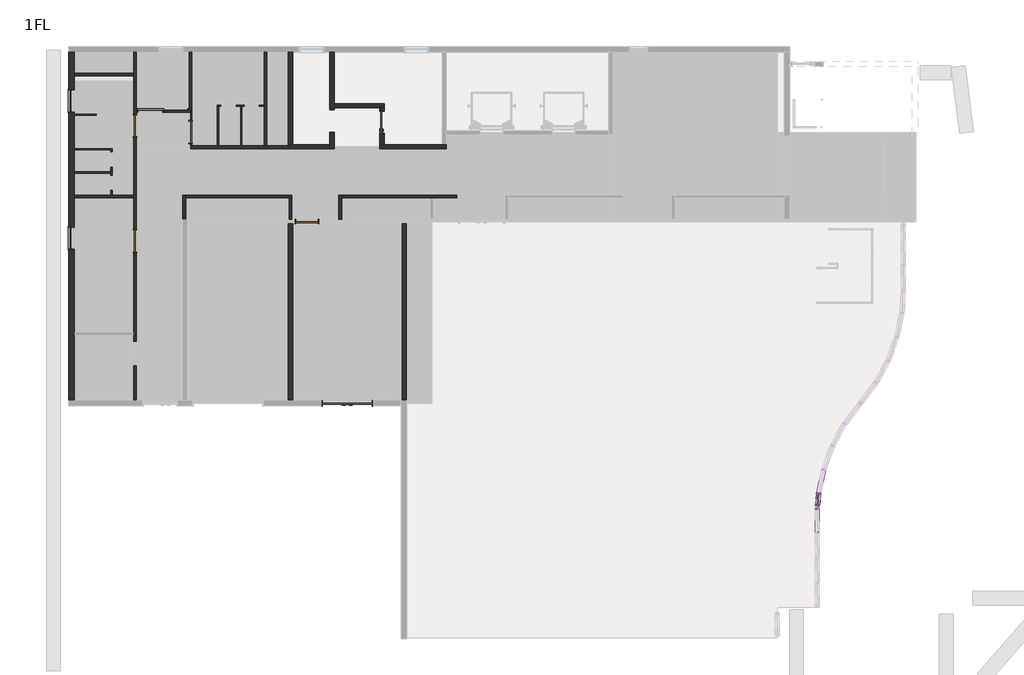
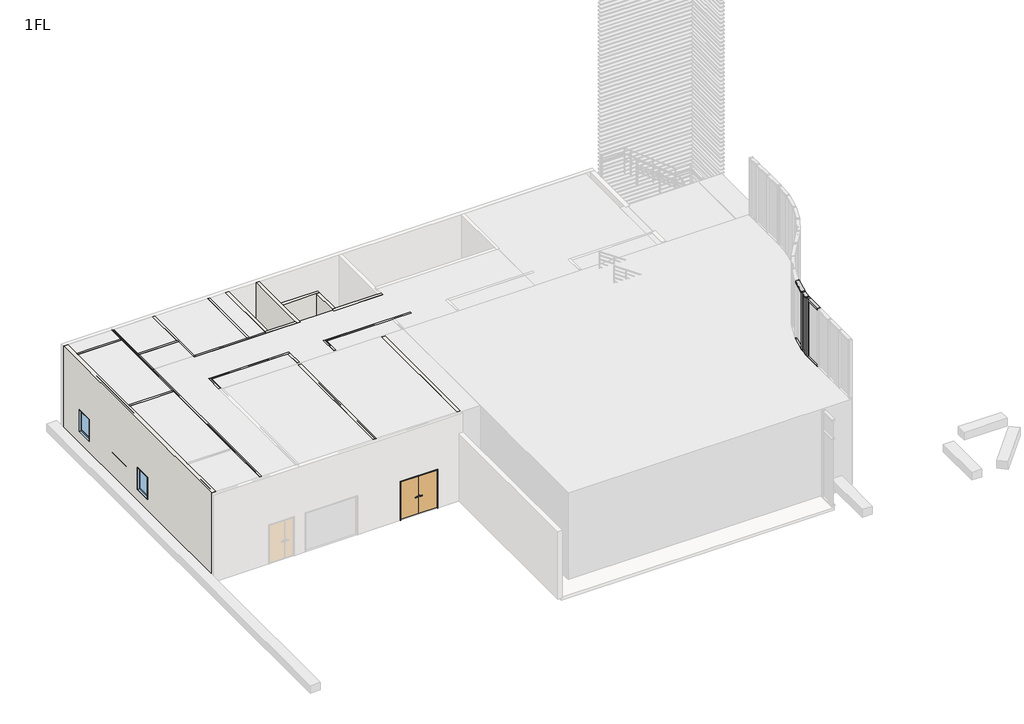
# One storey, part 2 of 4: 28 walls, 20 members, 8 doors, 3 plates, 2 windows.
"""IFC4 building model written with IfcOpenShell, lengths in millimetres."""

from ifc_helpers import new_model, si_unit, frame, origin, place, context, project, spatial, polyline, outline, extrude, faceted_brep, transform, mapped, element, save
from components import door_d36aa26d, w1800h2000_f6699b6c, w800h2000_3f366617, w800h2000_d618cdcf, w800h2000_a3277af1, member_70x150_cdd4dcf9, member_70x150_66cf63de, member_70x150_ad4265bc, member_70x150_1b280ac3, member_70x150_f8cbd96f, member_70x150_4e68411c, member_70x150_3f761639, member_70x150_beb285de, member_70x150_2211757b, member_70x150_e418e2be, plate_488bd90f, plate_74590c32, w800_h1100_43525bd9

model = new_model("IFC4")

# Units and contexts
model_context = context("Model", 3, world=origin())
ifc_project = project(units=[si_unit("LENGTHUNIT", "METRE", prefix="MILLI")], contexts=[model_context])

# Site, building, storey
site = spatial("IfcSite", under=ifc_project)
building = spatial("IfcBuilding", under=site)
storey = spatial("IfcBuildingStorey", under=building, Name="1FL", Elevation=100.0)

# Doors
placement = place(None, origin())
door_shape = door_d36aa26d(model_context)
element("IfcDoor", 1, ObjectType="両開き戸 : 両開き：w1800h2000", at=placement, inside=storey, context=model_context, shape_type="MappedRepresentation", body=[
    mapped(door_shape, transform((-18904.4500107, 3899.6868987, 100.0), x_axis=(-1.0, 0.0, 0.0), y_axis=(0.0, -1.0, 0.0), z_axis=(0.0, 0.0, 1.0))),
])
w1800h2000_shape = w1800h2000_f6699b6c(model_context)
element("IfcDoor", 2, ObjectType="片引戸 : w1800h2000", at=placement, inside=storey, context=model_context, shape_type="MappedRepresentation", body=[
    mapped(w1800h2000_shape, transform((-25845.9784025, 14539.6868987, 100.0), x_axis=(-1.0, 0.0, 0.0), y_axis=(0.0, -1.0, 0.0), z_axis=(0.0, 0.0, 1.0))),
])
w800h2000_shape = w800h2000_3f366617(model_context)
element("IfcDoor", 3, ObjectType="片開き戸 : w800h2000", at=placement, inside=storey, context=model_context, shape_type="MappedRepresentation", body=[
    mapped(w800h2000_shape, transform((-26545.9784025, 13899.6868987, 100.0), x_axis=(0.0, 1.0, 0.0), y_axis=(-1.0, 0.0, 0.0), z_axis=(0.0, 0.0, 1.0))),
])
element("IfcDoor", 4, ObjectType="片開き戸 : w800h2000", at=placement, inside=storey, context=model_context, shape_type="MappedRepresentation", body=[
    mapped(w800h2000_shape, transform((-26545.9784025, 9749.6868987, 100.0), x_axis=(0.0, 1.0, 0.0), y_axis=(-1.0, 0.0, 0.0), z_axis=(0.0, 0.0, 1.0))),
])
element("IfcDoor", 5, ObjectType="片開き戸 : w800h2000", at=placement, inside=storey, context=model_context, shape_type="MappedRepresentation", body=[
    mapped(w800h2000_shape, transform((-24545.9784025, 13674.6868987, 100.0), x_axis=(0.0, -1.0, 0.0), y_axis=(1.0, 0.0, 0.0), z_axis=(0.0, 0.0, 1.0))),
])
w800h2000_2_shape = w800h2000_d618cdcf(model_context)
element("IfcDoor", 6, ObjectType="片開き戸 : w800h2000", at=placement, inside=storey, context=model_context, shape_type="MappedRepresentation", body=[
    mapped(w800h2000_2_shape, transform((-20345.9784025, 10449.6868987, 100.0), x_axis=(-1.0, 0.0, 0.0), y_axis=(0.0, -1.0, 0.0), z_axis=(0.0, 0.0, 1.0))),
])
element("IfcDoor", 7, ObjectType="片開き戸 : w800h2000", at=placement, inside=storey, context=model_context, shape_type="MappedRepresentation", body=[
    mapped(w800h2000_2_shape, transform((-17645.9784025, 14024.6868987, 100.0), x_axis=(0.0, 1.0, 0.0), y_axis=(-1.0, 0.0, 0.0), z_axis=(0.0, 0.0, 1.0))),
])
w800h2000_3_shape = w800h2000_a3277af1(model_context)
element("IfcDoor", 8, ObjectType="開口枠あり : w800h2000", at=placement, inside=storey, context=model_context, shape_type="MappedRepresentation", body=[
    mapped(w800h2000_3_shape, transform((-19445.9784025, 14074.6868987, 100.0), x_axis=(0.0, 1.0, 0.0), y_axis=(-1.0, 0.0, 0.0), z_axis=(0.0, 0.0, 1.0))),
])

# Members
member_70x150_shape = member_70x150_cdd4dcf9(model_context)
element("IfcMember", 9, ObjectType="長方形のマリオン : 70x150", at=placement, inside=storey, context=model_context, shape_type="MappedRepresentation", body=[
    mapped(member_70x150_shape, transform((-1899.8591662, 644.4196307, 100.0), x_axis=(-0.13765395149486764, -0.990480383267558, 0.0), y_axis=(-0.990480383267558, 0.13765395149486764, 0.0), z_axis=(0.0, 0.0, -1.0))),
])
element("IfcMember", 10, ObjectType="長方形のマリオン : 70x150", at=placement, inside=storey, context=model_context, shape_type="MappedRepresentation", body=[
    mapped(member_70x150_shape, transform((-1945.9784025, 114.6868987, 100.0), x_axis=(0.0, 1.0, 0.0), y_axis=(1.0, 0.0, 0.0), z_axis=(0.0, 0.0, -1.0))),
])
member_70x150_2_shape = member_70x150_66cf63de(model_context)
element("IfcMember", 11, ObjectType="長方形のマリオン : 70x150", at=placement, inside=storey, context=model_context, shape_type="MappedRepresentation", body=[
    mapped(member_70x150_2_shape, transform((-1945.9784025, 79.6868987, 7600.0), x_axis=(0.0, 0.0, 1.0), y_axis=(1.0, 0.0, 0.0), z_axis=(0.0, 1.0, 0.0))),
])
member_70x150_3_shape = member_70x150_ad4265bc(model_context)
element("IfcMember", 12, ObjectType="長方形のマリオン : 70x150", at=placement, inside=storey, context=model_context, shape_type="MappedRepresentation", body=[
    mapped(member_70x150_3_shape, transform((-1945.9784025, 79.6868987, 3100.0), x_axis=(0.0, 0.0, 1.0), y_axis=(1.0, 0.0, 0.0), z_axis=(0.0, 1.0, 0.0))),
])
element("IfcMember", 13, ObjectType="長方形のマリオン : 70x150", at=placement, inside=storey, context=model_context, shape_type="MappedRepresentation", body=[
    mapped(member_70x150_3_shape, transform((-1945.9784025, 79.6868987, 4600.0), x_axis=(0.0, 0.0, 1.0), y_axis=(1.0, 0.0, 0.0), z_axis=(0.0, 1.0, 0.0))),
])
member_70x150_4_shape = member_70x150_1b280ac3(model_context)
element("IfcMember", 14, ObjectType="長方形のマリオン : 70x150", at=placement, inside=storey, context=model_context, shape_type="MappedRepresentation", body=[
    mapped(member_70x150_4_shape, transform((-1945.9784025, 189.6095485, 100.0), x_axis=(-0.10088592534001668, -0.9948979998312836, 0.0), y_axis=(-0.9948979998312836, 0.10088592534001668, 0.0), z_axis=(0.0, 0.0, -1.0))),
])
member_70x150_5_shape = member_70x150_f8cbd96f(model_context)
element("IfcMember", 15, ObjectType="長方形のマリオン : 70x150", at=placement, inside=storey, context=model_context, shape_type="MappedRepresentation", body=[
    mapped(member_70x150_5_shape, transform((-1899.8591662, 644.4196307, 3100.0), x_axis=(-0.13765395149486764, -0.990480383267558, 0.0), y_axis=(-0.990480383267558, 0.13765395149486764, 0.0), z_axis=(0.0, 0.0, -1.0))),
])
element("IfcMember", 16, ObjectType="長方形のマリオン : 70x150", at=placement, inside=storey, context=model_context, shape_type="MappedRepresentation", body=[
    mapped(member_70x150_5_shape, transform((-1945.9784025, 114.6868987, 3100.0), x_axis=(0.0, 1.0, 0.0), y_axis=(1.0, 0.0, 0.0), z_axis=(0.0, 0.0, -1.0))),
])
element("IfcMember", 17, ObjectType="長方形のマリオン : 70x150", at=placement, inside=storey, context=model_context, shape_type="MappedRepresentation", body=[
    mapped(member_70x150_shape, transform((-1899.8591662, 644.4196307, 4600.0), x_axis=(-0.13765395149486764, -0.990480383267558, 0.0), y_axis=(-0.990480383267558, 0.13765395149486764, 0.0), z_axis=(0.0, 0.0, -1.0))),
])
element("IfcMember", 18, ObjectType="長方形のマリオン : 70x150", at=placement, inside=storey, context=model_context, shape_type="MappedRepresentation", body=[
    mapped(member_70x150_shape, transform((-1945.9784025, 114.6868987, 4600.0), x_axis=(0.0, 1.0, 0.0), y_axis=(1.0, 0.0, 0.0), z_axis=(0.0, 0.0, -1.0))),
])
element("IfcMember", 19, ObjectType="長方形のマリオン : 70x150", at=placement, inside=storey, context=model_context, shape_type="MappedRepresentation", body=[
    mapped(member_70x150_4_shape, transform((-1945.9784025, 189.6095485, 4600.0), x_axis=(-0.10088592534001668, -0.9948979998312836, 0.0), y_axis=(-0.9948979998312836, 0.10088592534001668, 0.0), z_axis=(0.0, 0.0, -1.0))),
])
member_70x150_6_shape = member_70x150_4e68411c(model_context)
element("IfcMember", 20, ObjectType="長方形のマリオン : 70x150", at=placement, inside=storey, context=model_context, shape_type="MappedRepresentation", body=[
    mapped(member_70x150_6_shape, transform((-1945.9784025, 189.6095485, 3100.0), x_axis=(-0.10088592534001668, -0.9948979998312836, 0.0), y_axis=(-0.9948979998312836, 0.10088592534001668, 0.0), z_axis=(0.0, 0.0, -1.0))),
])
member_70x150_7_shape = member_70x150_3f761639(model_context)
element("IfcMember", 21, ObjectType="長方形のマリオン : 70x150", at=placement, inside=storey, context=model_context, shape_type="MappedRepresentation", body=[
    mapped(member_70x150_7_shape, transform((-1938.9163877, 259.2524085, 3100.0), x_axis=(0.0, 0.0, 1.0), y_axis=(-0.9948979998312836, 0.10088592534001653, 0.0), z_axis=(-0.10088592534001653, -0.9948979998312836, 0.0))),
])
member_70x150_8_shape = member_70x150_beb285de(model_context)
element("IfcMember", 22, ObjectType="長方形のマリオン : 70x150", at=placement, inside=storey, context=model_context, shape_type="MappedRepresentation", body=[
    mapped(member_70x150_8_shape, transform((-1892.5270502, 678.6430156, 4600.0), x_axis=(0.0, 0.0, 1.0), y_axis=(-0.9778109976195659, 0.2094890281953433, 0.0), z_axis=(-0.2094890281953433, -0.9778109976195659, 0.0))),
])
element("IfcMember", 23, ObjectType="長方形のマリオン : 70x150", at=placement, inside=storey, context=model_context, shape_type="MappedRepresentation", body=[
    mapped(member_70x150_7_shape, transform((-1938.9163877, 259.2524085, 4600.0), x_axis=(0.0, 0.0, 1.0), y_axis=(-0.9948979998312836, 0.10088592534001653, 0.0), z_axis=(-0.10088592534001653, -0.9948979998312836, 0.0))),
])
element("IfcMember", 24, ObjectType="長方形のマリオン : 70x150", at=placement, inside=storey, context=model_context, shape_type="MappedRepresentation", body=[
    mapped(member_70x150_8_shape, transform((-1892.5270502, 678.6430156, 3100.0), x_axis=(0.0, 0.0, 1.0), y_axis=(-0.9778109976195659, 0.2094890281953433, 0.0), z_axis=(-0.2094890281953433, -0.9778109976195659, 0.0))),
])
member_70x150_9_shape = member_70x150_2211757b(model_context)
element("IfcMember", 25, ObjectType="長方形のマリオン : 70x150", at=placement, inside=storey, context=model_context, shape_type="MappedRepresentation", body=[
    mapped(member_70x150_9_shape, transform((-1892.5270502, 678.6430156, 7600.0), x_axis=(0.0, 0.0, 1.0), y_axis=(-0.9778109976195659, 0.2094890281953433, 0.0), z_axis=(-0.2094890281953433, -0.9778109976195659, 0.0))),
])
member_70x150_10_shape = member_70x150_e418e2be(model_context)
element("IfcMember", 26, ObjectType="長方形のマリオン : 70x150", at=placement, inside=storey, context=model_context, shape_type="MappedRepresentation", body=[
    mapped(member_70x150_10_shape, transform((-1903.3901735, 609.5982007, 100.0), x_axis=(0.0, 0.0, -1.0), y_axis=(-0.9948979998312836, 0.10088592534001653, 0.0), z_axis=(0.10088592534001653, 0.9948979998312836, 0.0))),
])
element("IfcMember", 27, ObjectType="長方形のマリオン : 70x150", at=placement, inside=storey, context=model_context, shape_type="MappedRepresentation", body=[
    mapped(member_70x150_10_shape, transform((-1938.9163877, 259.2524085, 7600.0), x_axis=(0.0, 0.0, 1.0), y_axis=(-0.9948979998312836, 0.10088592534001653, 0.0), z_axis=(-0.10088592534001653, -0.9948979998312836, 0.0))),
])
element("IfcMember", 28, ObjectType="長方形のマリオン : 70x150", at=placement, inside=storey, context=model_context, shape_type="MappedRepresentation", body=[
    mapped(member_70x150_4_shape, transform((-1945.9784025, 189.6095485, 4600.0), x_axis=(0.0, 1.0, 0.0), y_axis=(1.0, 0.0, 0.0), z_axis=(0.0, 0.0, -1.0))),
])

# Plates
plate_shape = plate_488bd90f(model_context)
element("IfcPlate", 29, ObjectType="システム パネル : 標準", at=placement, inside=storey, context=model_context, shape_type="MappedRepresentation", body=[
    mapped(plate_shape, transform((-1921.1532806, 434.4253046, 170.0), x_axis=(-0.10088592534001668, -0.9948979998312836, 0.0), y_axis=(0.9948979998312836, -0.10088592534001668, 0.0), z_axis=(0.0, 0.0, 1.0))),
])
element("IfcPlate", 30, ObjectType="システム パネル : 標準", at=placement, inside=storey, context=model_context, shape_type="MappedRepresentation", body=[
    mapped(plate_shape, transform((-1921.1532806, 434.4253046, 4635.0), x_axis=(-0.10088592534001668, -0.9948979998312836, 0.0), y_axis=(0.9948979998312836, -0.10088592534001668, 0.0), z_axis=(0.0, 0.0, 1.0))),
])
plate_2_shape = plate_74590c32(model_context)
element("IfcPlate", 31, ObjectType="システム パネル : 標準", at=placement, inside=storey, context=model_context, shape_type="MappedRepresentation", body=[
    mapped(plate_2_shape, transform((-1921.1532806, 434.4253046, 3135.0), x_axis=(-0.10088592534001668, -0.9948979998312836, 0.0), y_axis=(0.9948979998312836, -0.10088592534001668, 0.0), z_axis=(0.0, 0.0, 1.0))),
])

# Walls
element("IfcWall", 32, ObjectType="標準200", at=placement, inside=storey, context=model_context, shape_type="Brep", body=[
    faceted_brep([(-28745.9784025, 3999.6868987, 100.0), (-28745.9784025, 4349.6868987, 100.0), (-28745.9784025, 6349.6868987, 100.0), (-28745.9784025, 6449.6868987, 100.0), (-28745.9784025, 10449.6868987, 100.0), (-28745.9784025, 11299.6868987, 100.0), (-28745.9784025, 11399.6868987, 100.0), (-28745.9784025, 12199.6868987, 100.0), (-28745.9784025, 12239.6868987, 100.0), (-28745.9784025, 13039.6868987, 100.0), (-28745.9784025, 13079.6868987, 100.0), (-28745.9784025, 14279.6868987, 100.0), (-28745.9784025, 14319.6868987, 100.0), (-28745.9784025, 15699.6868987, 100.0), (-28745.9784025, 15799.6868987, 100.0), (-28745.9784025, 16549.6868987, 100.0), (-28745.9784025, 16549.6868987, 4600.0), (-28745.9784025, 15799.6868987, 4600.0), (-28745.9784025, 15699.6868987, 4600.0), (-28745.9784025, 11399.6868987, 4600.0), (-28745.9784025, 11299.6868987, 4600.0), (-28745.9784025, 10449.6868987, 4600.0), (-28745.9784025, 6449.6868987, 4600.0), (-28745.9784025, 6349.6868987, 4600.0), (-28745.9784025, 4349.6868987, 4600.0), (-28745.9784025, 3999.6868987, 4600.0), (-28745.9784025, 15224.6868987, 2125.0), (-28745.9784025, 15224.6868987, 975.0), (-28745.9784025, 14374.6868987, 975.0), (-28745.9784025, 14374.6868987, 2125.0), (-28745.9784025, 10274.6868987, 2125.0), (-28745.9784025, 10274.6868987, 975.0), (-28745.9784025, 9424.6868987, 975.0), (-28745.9784025, 9424.6868987, 2125.0), (-28945.9784025, 3999.6868987, 100.0), (-28945.9784025, 3999.6868987, 4600.0), (-28945.9784025, 16549.6868987, 4600.0), (-28945.9784025, 16549.6868987, 100.0), (-28945.9784025, 15224.6868987, 2125.0), (-28945.9784025, 14374.6868987, 2125.0), (-28945.9784025, 14374.6868987, 975.0), (-28945.9784025, 15224.6868987, 975.0), (-28945.9784025, 10274.6868987, 2125.0), (-28945.9784025, 9424.6868987, 2125.0), (-28945.9784025, 9424.6868987, 975.0), (-28945.9784025, 10274.6868987, 975.0), (-28845.9784025, 16549.6868987, 4600.0)], [[[0, 1, 2, 3, 4, 5, 6, 7, 8, 9, 10, 11, 12, 13, 14, 15, 16, 17, 18, 19, 20, 21, 22, 23, 24, 25], [26, 27, 28, 29], [30, 31, 32, 33]], [[34, 35, 36, 37], [38, 39, 40, 41], [42, 43, 44, 45]], [[15, 14, 13, 12, 11, 10, 9, 8, 7, 6, 5, 4, 3, 2, 1, 0, 34, 37]], [[25, 24, 23, 22, 21, 20, 19, 18, 17, 16, 46, 36, 35]], [[0, 25, 35, 34]], [[15, 37, 36, 46, 16]], [[27, 26, 38, 41]], [[28, 27, 41, 40]], [[29, 28, 40, 39]], [[26, 29, 39, 38]], [[31, 30, 42, 45]], [[32, 31, 45, 44]], [[33, 32, 44, 43]], [[30, 33, 43, 42]]]),
])
element("IfcWall", 33, ObjectType="標準150", at=placement, inside=storey, context=model_context, shape_type="Brep", body=[
    faceted_brep([(-15320.9784025, 13224.6868987, 100.0), (-15470.9784025, 13224.6868987, 100.0), (-17570.9784025, 13224.6868987, 100.0), (-17720.9784025, 13224.6868987, 100.0), (-17720.9784025, 13224.6868987, 4600.0), (-17570.9784025, 13224.6868987, 4600.0), (-15470.9784025, 13224.6868987, 4600.0), (-15320.9784025, 13224.6868987, 4600.0), (-15320.9784025, 13074.6868987, 100.0), (-15320.9784025, 13074.6868987, 4600.0), (-17720.9784025, 13074.6868987, 4600.0), (-17720.9784025, 13074.6868987, 100.0)], [[[0, 1, 2, 3, 4, 5, 6, 7]], [[8, 9, 10, 11]], [[3, 2, 1, 0, 8, 11]], [[7, 6, 5, 4, 10, 9]], [[0, 7, 9, 8]], [[4, 3, 11, 10]]]),
])
element("IfcWall", 34, ObjectType="標準150", at=placement, inside=storey, context=model_context, shape_type="Brep", body=[
    faceted_brep([(-20870.9784025, 13224.6868987, 100.0), (-20870.9784025, 16549.6868987, 100.0), (-20870.9784025, 16549.6868987, 4600.0), (-20870.9784025, 13224.6868987, 4600.0), (-21020.9784025, 13224.6868987, 100.0), (-21020.9784025, 13224.6868987, 4600.0), (-21020.9784025, 16549.6868987, 4600.0), (-21020.9784025, 16549.6868987, 100.0), (-21020.9784025, 15749.6868987, 100.0)], [[[0, 1, 2, 3]], [[4, 5, 6, 7, 8]], [[1, 0, 4, 8, 7]], [[3, 2, 6, 5]], [[2, 1, 7, 6]], [[0, 3, 5, 4]]]),
])
element("IfcWall", 35, ObjectType="標準150", at=placement, inside=storey, context=model_context, shape_type="Brep", body=[
    faceted_brep([(-16920.9784025, 10374.6868987, 100.0), (-16920.9784025, 3999.6868987, 100.0), (-16920.9784025, 3999.6868987, 4600.0), (-16920.9784025, 10374.6868987, 4600.0), (-16770.9784025, 10374.6868987, 100.0), (-16770.9784025, 10374.6868987, 4600.0), (-16770.9784025, 3999.6868987, 4600.0), (-16770.9784025, 3999.6868987, 3600.0), (-16770.9784025, 3999.6868987, 100.0)], [[[0, 1, 2, 3]], [[4, 5, 6, 7, 8]], [[1, 0, 4, 8]], [[3, 2, 6, 5]], [[2, 1, 8, 7, 6]], [[0, 3, 5, 4]]]),
])
element("IfcWall", 36, ObjectType="標準150", at=placement, inside=storey, context=model_context, shape_type="Brep", body=[
    faceted_brep([(-20870.9784025, 3999.6868987, 100.0), (-20870.9784025, 10374.6868987, 100.0), (-20870.9784025, 10374.6868987, 4600.0), (-20870.9784025, 3999.6868987, 4600.0), (-21020.9784025, 3999.6868987, 100.0), (-21020.9784025, 3999.6868987, 4600.0), (-21020.9784025, 4349.6868987, 4600.0), (-21020.9784025, 10374.6868987, 4600.0), (-21020.9784025, 10374.6868987, 100.0), (-21020.9784025, 4349.6868987, 100.0)], [[[0, 1, 2, 3]], [[4, 5, 6, 7, 8, 9]], [[1, 0, 4, 9, 8]], [[3, 2, 7, 6, 5]], [[0, 3, 5, 4]], [[2, 1, 8, 7]]]),
])
element("IfcWall", 37, ObjectType="標準100", at=placement, inside=storey, context=model_context, shape_type="Brep", body=[
    faceted_brep([(-26495.9784025, 3999.6868987, 100.0), (-26495.9784025, 5274.6868987, 100.0), (-26495.9784025, 5274.6868987, 2125.0), (-26495.9784025, 6124.6868987, 2125.0), (-26495.9784025, 6124.6868987, 100.0), (-26495.9784025, 9324.6868987, 100.0), (-26495.9784025, 9324.6868987, 2125.0), (-26495.9784025, 10174.6868987, 2125.0), (-26495.9784025, 10174.6868987, 100.0), (-26495.9784025, 13474.6868987, 100.0), (-26495.9784025, 13474.6868987, 2125.0), (-26495.9784025, 14324.6868987, 2125.0), (-26495.9784025, 14324.6868987, 100.0), (-26495.9784025, 16549.6868987, 100.0), (-26495.9784025, 16549.6868987, 4600.0), (-26495.9784025, 14499.6868987, 4600.0), (-26495.9784025, 14399.6868987, 4600.0), (-26495.9784025, 3999.6868987, 4600.0), (-26595.9784025, 5274.6868987, 2125.0), (-26595.9784025, 5274.6868987, 100.0), (-26595.9784025, 3999.6868987, 100.0), (-26595.9784025, 3999.6868987, 4600.0), (-26595.9784025, 6349.6868987, 4600.0), (-26595.9784025, 6449.6868987, 4600.0), (-26595.9784025, 11299.6868987, 4600.0), (-26595.9784025, 11399.6868987, 4600.0), (-26595.9784025, 15699.6868987, 4600.0), (-26595.9784025, 15799.6868987, 4600.0), (-26595.9784025, 16549.6868987, 4600.0), (-26595.9784025, 16549.6868987, 100.0), (-26595.9784025, 15799.6868987, 100.0), (-26595.9784025, 15699.6868987, 100.0), (-26595.9784025, 14324.6868987, 100.0), (-26595.9784025, 14324.6868987, 2125.0), (-26595.9784025, 13474.6868987, 2125.0), (-26595.9784025, 13474.6868987, 100.0), (-26595.9784025, 11399.6868987, 100.0), (-26595.9784025, 11299.6868987, 100.0), (-26595.9784025, 10174.6868987, 100.0), (-26595.9784025, 10174.6868987, 2125.0), (-26595.9784025, 9324.6868987, 2125.0), (-26595.9784025, 9324.6868987, 100.0), (-26595.9784025, 6449.6868987, 100.0), (-26595.9784025, 6349.6868987, 100.0), (-26595.9784025, 6124.6868987, 100.0), (-26595.9784025, 6124.6868987, 2125.0)], [[[0, 1, 2, 3, 4, 5, 6, 7, 8, 9, 10, 11, 12, 13, 14, 15, 16, 17]], [[18, 19, 20, 21, 22, 23, 24, 25, 26, 27, 28, 29, 30, 31, 32, 33, 34, 35, 36, 37, 38, 39, 40, 41, 42, 43, 44, 45]], [[38, 37, 36, 35, 9, 8]], [[20, 19, 1, 0]], [[44, 43, 42, 41, 5, 4]], [[32, 31, 30, 29, 13, 12]], [[17, 16, 15, 14, 28, 27, 26, 25, 24, 23, 22, 21]], [[14, 13, 29, 28]], [[0, 17, 21, 20]], [[12, 11, 33, 32]], [[10, 9, 35, 34]], [[11, 10, 34, 33]], [[8, 7, 39, 38]], [[6, 5, 41, 40]], [[7, 6, 40, 39]], [[4, 3, 45, 44]], [[2, 1, 19, 18]], [[3, 2, 18, 45]]]),
])
element("IfcWall", 38, ObjectType="標準100", at=placement, inside=storey, context=model_context, shape_type="Brep", body=[
    faceted_brep([(-26595.9784025, 11399.6868987, 100.0), (-27375.9784025, 11399.6868987, 100.0), (-27415.9784025, 11399.6868987, 100.0), (-28745.9784025, 11399.6868987, 100.0), (-28745.9784025, 11399.6868987, 4600.0), (-26595.9784025, 11399.6868987, 4600.0), (-26595.9784025, 11299.6868987, 100.0), (-26595.9784025, 11299.6868987, 4600.0), (-27945.9784025, 11299.6868987, 4600.0), (-28745.9784025, 11299.6868987, 4600.0), (-28745.9784025, 11299.6868987, 100.0), (-27945.9784025, 11299.6868987, 100.0)], [[[0, 1, 2, 3, 4, 5]], [[6, 7, 8, 9, 10, 11]], [[3, 2, 1, 0, 6, 11, 10]], [[5, 4, 9, 8, 7]], [[4, 3, 10, 9]], [[0, 5, 7, 6]]]),
])
element("IfcWall", 39, ObjectType="標準100", at=placement, inside=storey, context=model_context, shape_type="Brep", body=[
    faceted_brep([(-24545.9784025, 14399.6868987, 100.0), (-24545.9784025, 14399.6868987, 4600.0), (-26495.9784025, 14399.6868987, 4600.0), (-26495.9784025, 14399.6868987, 100.0), (-26470.9784025, 14399.6868987, 100.0), (-26470.9784025, 14399.6868987, 2125.0), (-25520.9784025, 14399.6868987, 2125.0), (-25520.9784025, 14399.6868987, 100.0), (-24545.9784025, 14499.6868987, 4600.0), (-24545.9784025, 14499.6868987, 100.0), (-24595.9784025, 14499.6868987, 100.0), (-24620.9784025, 14499.6868987, 100.0), (-24620.9784025, 14499.6868987, 2100.0), (-25520.9784025, 14499.6868987, 2100.0), (-25520.9784025, 14499.6868987, 2125.0), (-26470.9784025, 14499.6868987, 2125.0), (-26470.9784025, 14499.6868987, 100.0), (-26495.9784025, 14499.6868987, 100.0), (-26495.9784025, 14499.6868987, 4600.0), (-24595.9784025, 14499.6868987, 4600.0), (-25520.9784025, 14464.6868987, 100.0), (-24620.9784025, 14464.6868987, 100.0), (-25520.9784025, 14464.6868987, 2100.0), (-24620.9784025, 14464.6868987, 2100.0)], [[[0, 1, 2, 3, 4, 5, 6, 7]], [[8, 9, 10, 11, 12, 13, 14, 15, 16, 17, 18, 19]], [[3, 17, 16, 4]], [[9, 0, 7, 20, 21, 11, 10]], [[1, 0, 9, 8]], [[2, 1, 8, 19, 18]], [[3, 2, 18, 17]], [[5, 15, 14, 6]], [[22, 20, 7, 6, 14, 13]], [[15, 5, 4, 16]], [[23, 22, 13, 12]], [[20, 22, 23, 21]], [[21, 23, 12, 11]]]),
])
element("IfcWall", 40, ObjectType="標準100", at=placement, inside=storey, context=model_context, shape_type="Brep", body=[
    faceted_brep([(-24720.9784025, 10524.6868987, 100.0), (-24720.9784025, 11299.6868987, 100.0), (-24720.9784025, 11399.6868987, 100.0), (-24720.9784025, 11399.6868987, 4600.0), (-24720.9784025, 11299.6868987, 4600.0), (-24720.9784025, 10524.6868987, 4600.0), (-24820.9784025, 10524.6868987, 100.0), (-24820.9784025, 10524.6868987, 4600.0), (-24820.9784025, 11399.6868987, 4600.0), (-24820.9784025, 11399.6868987, 100.0)], [[[0, 1, 2, 3, 4, 5]], [[6, 7, 8, 9]], [[2, 1, 0, 6, 9]], [[5, 4, 3, 8, 7]], [[0, 5, 7, 6]], [[3, 2, 9, 8]]]),
])
element("IfcWall", 41, ObjectType="標準100", at=placement, inside=storey, context=model_context, shape_type="Brep", body=[
    faceted_brep([(-24720.9784025, 11299.6868987, 100.0), (-21845.9784025, 11299.6868987, 100.0), (-20995.9784025, 11299.6868987, 100.0), (-20895.9784025, 11299.6868987, 100.0), (-20895.9784025, 11299.6868987, 4600.0), (-20995.9784025, 11299.6868987, 4600.0), (-21795.9784025, 11299.6868987, 4600.0), (-21845.9784025, 11299.6868987, 4600.0), (-24720.9784025, 11299.6868987, 4600.0), (-24720.9784025, 11399.6868987, 100.0), (-24720.9784025, 11399.6868987, 4600.0), (-20895.9784025, 11399.6868987, 4600.0), (-20895.9784025, 11399.6868987, 100.0)], [[[0, 1, 2, 3, 4, 5, 6, 7, 8]], [[9, 10, 11, 12]], [[3, 2, 1, 0, 9, 12]], [[8, 7, 6, 5, 4, 11, 10]], [[0, 8, 10, 9]], [[4, 3, 12, 11]]]),
])
element("IfcWall", 42, ObjectType="標準100", at=placement, inside=storey, context=model_context, shape_type="Brep", body=[
    faceted_brep([(-20995.9784025, 11299.6868987, 100.0), (-20995.9784025, 10524.6868987, 100.0), (-20995.9784025, 10524.6868987, 4600.0), (-20995.9784025, 11299.6868987, 4600.0), (-20895.9784025, 11299.6868987, 100.0), (-20895.9784025, 11299.6868987, 4600.0), (-20895.9784025, 10524.6868987, 4600.0), (-20895.9784025, 10524.6868987, 100.0), (-20945.9784025, 10524.6868987, 100.0), (-20945.9784025, 11299.6868987, 4600.0)], [[[0, 1, 2, 3]], [[4, 5, 6, 7]], [[1, 0, 4, 7, 8]], [[3, 2, 6, 5, 9]], [[0, 3, 9, 5, 4]], [[2, 1, 8, 7, 6]]]),
])
element("IfcWall", 43, ObjectType="標準100", at=placement, inside=storey, context=model_context, shape_type="Brep", body=[
    faceted_brep([(-19095.9784025, 10524.6868987, 100.0), (-19095.9784025, 11299.6868987, 100.0), (-19095.9784025, 11399.6868987, 100.0), (-19095.9784025, 11399.6868987, 4600.0), (-19095.9784025, 11299.6868987, 4600.0), (-19095.9784025, 10524.6868987, 4600.0), (-19195.9784025, 10524.6868987, 100.0), (-19195.9784025, 10524.6868987, 4600.0), (-19195.9784025, 11399.6868987, 4600.0), (-19195.9784025, 11399.6868987, 100.0)], [[[0, 1, 2, 3, 4, 5]], [[6, 7, 8, 9]], [[2, 1, 0, 6, 9]], [[5, 4, 3, 8, 7]], [[0, 5, 7, 6]], [[3, 2, 9, 8]]]),
])
element("IfcWall", 44, ObjectType="標準100", at=placement, inside=storey, context=model_context, shape_type="Brep", body=[
    faceted_brep([(-19095.9784025, 11299.6868987, 100.0), (-15895.9784025, 11299.6868987, 100.0), (-15795.9784025, 11299.6868987, 100.0), (-14945.9784025, 11299.6868987, 100.0), (-14945.9784025, 11299.6868987, 4600.0), (-15795.9784025, 11299.6868987, 4600.0), (-15895.9784025, 11299.6868987, 4600.0), (-19095.9784025, 11299.6868987, 4600.0), (-19095.9784025, 11399.6868987, 100.0), (-19095.9784025, 11399.6868987, 4600.0), (-14945.9784025, 11399.6868987, 4600.0), (-14945.9784025, 11399.6868987, 100.0)], [[[0, 1, 2, 3, 4, 5, 6, 7]], [[8, 9, 10, 11]], [[3, 2, 1, 0, 8, 11]], [[4, 3, 11, 10]], [[7, 6, 5, 4, 10, 9]], [[0, 7, 9, 8]]]),
])
element("IfcWall", 45, ObjectType="標準100", at=placement, inside=storey, context=model_context, shape_type="Brep", body=[
    faceted_brep([(-24495.9784025, 16549.6868987, 4600.0), (-24495.9784025, 13174.6868987, 4600.0), (-24495.9784025, 13174.6868987, 100.0), (-24495.9784025, 13249.6868987, 100.0), (-24495.9784025, 13249.6868987, 2125.0), (-24495.9784025, 14099.6868987, 2125.0), (-24495.9784025, 14099.6868987, 100.0), (-24495.9784025, 16549.6868987, 100.0), (-24595.9784025, 16549.6868987, 100.0), (-24595.9784025, 14499.6868987, 100.0), (-24595.9784025, 14499.6868987, 4600.0), (-24595.9784025, 16549.6868987, 4600.0), (-24545.9784025, 14099.6868987, 100.0), (-24545.9784025, 14399.6868987, 100.0), (-24545.9784025, 14499.6868987, 100.0), (-24545.9784025, 13174.6868987, 100.0), (-24545.9784025, 13249.6868987, 100.0), (-24545.9784025, 14499.6868987, 4600.0), (-24545.9784025, 14399.6868987, 4600.0), (-24545.9784025, 13174.6868987, 4600.0), (-24545.9784025, 14099.6868987, 2125.0), (-24545.9784025, 13249.6868987, 2125.0)], [[[0, 1, 2, 3, 4, 5, 6, 7]], [[8, 9, 10, 11]], [[9, 8, 7, 6, 12, 13, 14]], [[2, 15, 16, 3]], [[1, 0, 11, 10, 17, 18, 19]], [[0, 7, 8, 11]], [[2, 1, 19, 15]], [[19, 18, 17, 14, 13, 12, 20, 21, 16, 15]], [[10, 9, 14, 17]], [[21, 4, 3, 16]], [[5, 20, 12, 6]], [[4, 21, 20, 5]]]),
])
element("IfcWall", 46, ObjectType="標準100", at=placement, inside=storey, context=model_context, shape_type="Brep", body=[
    faceted_brep([(-24545.9784025, 13074.6868987, 100.0), (-21020.9784025, 13074.6868987, 100.0), (-21020.9784025, 13074.6868987, 4600.0), (-24545.9784025, 13074.6868987, 4600.0), (-24545.9784025, 13174.6868987, 100.0), (-24545.9784025, 13174.6868987, 4600.0), (-24495.9784025, 13174.6868987, 4600.0), (-21895.9784025, 13174.6868987, 4600.0), (-21795.9784025, 13174.6868987, 4600.0), (-21020.9784025, 13174.6868987, 4600.0), (-21020.9784025, 13174.6868987, 100.0), (-21795.9784025, 13174.6868987, 100.0), (-21895.9784025, 13174.6868987, 100.0), (-22695.9784025, 13174.6868987, 100.0), (-22735.9784025, 13174.6868987, 100.0), (-23535.9784025, 13174.6868987, 100.0), (-23575.9784025, 13174.6868987, 100.0), (-24495.9784025, 13174.6868987, 100.0)], [[[0, 1, 2, 3]], [[4, 5, 6, 7, 8, 9, 10, 11, 12, 13, 14, 15, 16, 17]], [[1, 0, 4, 17, 16, 15, 14, 13, 12, 11, 10]], [[3, 2, 9, 8, 7, 6, 5]], [[0, 3, 5, 4]], [[2, 1, 10, 9]]]),
])
element("IfcWall", 47, ObjectType="標準150", at=placement, inside=storey, context=model_context, shape_type="Brep", body=[
    faceted_brep([(-19370.9784025, 13074.6868987, 100.0), (-19370.9784025, 13649.6868987, 100.0), (-19370.9784025, 13649.6868987, 2125.0), (-19370.9784025, 14499.6868987, 2125.0), (-19370.9784025, 14499.6868987, 100.0), (-19370.9784025, 14549.6868987, 100.0), (-19370.9784025, 14699.6868987, 100.0), (-19370.9784025, 16549.6868987, 100.0), (-19370.9784025, 16549.6868987, 4600.0), (-19370.9784025, 14699.6868987, 4600.0), (-19370.9784025, 14549.6868987, 4600.0), (-19370.9784025, 13074.6868987, 4600.0), (-19520.9784025, 13649.6868987, 2125.0), (-19520.9784025, 13649.6868987, 100.0), (-19520.9784025, 13224.6868987, 100.0), (-19520.9784025, 13074.6868987, 100.0), (-19520.9784025, 13074.6868987, 4600.0), (-19520.9784025, 13224.6868987, 4600.0), (-19520.9784025, 16549.6868987, 4600.0), (-19520.9784025, 16549.6868987, 100.0), (-19520.9784025, 14499.6868987, 100.0), (-19520.9784025, 14499.6868987, 2125.0)], [[[0, 1, 2, 3, 4, 5, 6, 7, 8, 9, 10, 11]], [[12, 13, 14, 15, 16, 17, 18, 19, 20, 21]], [[20, 19, 7, 6, 5, 4]], [[15, 14, 13, 1, 0]], [[11, 10, 9, 8, 18, 17, 16]], [[4, 3, 21, 20]], [[2, 1, 13, 12]], [[3, 2, 12, 21]], [[8, 7, 19, 18]], [[0, 11, 16, 15]]]),
])
element("IfcWall", 48, ObjectType="トイレブース 40", at=placement, inside=storey, context=model_context, shape_type="Brep", body=[
    faceted_brep([(-23535.9784025, 13174.6868987, 100.0), (-23535.9784025, 14604.6868987, 100.0), (-23535.9784025, 14644.6868987, 100.0), (-23535.9784025, 14644.6868987, 2100.0), (-23535.9784025, 14604.6868987, 2100.0), (-23535.9784025, 13174.6868987, 2100.0), (-23575.9784025, 13174.6868987, 100.0), (-23575.9784025, 13174.6868987, 2100.0), (-23575.9784025, 14644.6868987, 2100.0), (-23575.9784025, 14644.6868987, 100.0)], [[[0, 1, 2, 3, 4, 5]], [[6, 7, 8, 9]], [[2, 1, 0, 6, 9]], [[5, 4, 3, 8, 7]], [[0, 5, 7, 6]], [[3, 2, 9, 8]]]),
])
element("IfcWall", 49, ObjectType="トイレブース 40", at=placement, inside=storey, context=model_context, shape_type="Brep", body=[
    faceted_brep([(-23535.9784025, 14604.6868987, 2100.0), (-23535.9784025, 14604.6868987, 100.0), (-23455.9784025, 14604.6868987, 100.0), (-23455.9784025, 14604.6868987, 2100.0), (-23535.9784025, 14644.6868987, 100.0), (-23535.9784025, 14644.6868987, 2100.0), (-23455.9784025, 14644.6868987, 2100.0), (-23455.9784025, 14644.6868987, 100.0)], [[[0, 1, 2, 3]], [[4, 5, 6, 7]], [[1, 4, 7, 2]], [[5, 0, 3, 6]], [[1, 0, 5, 4]], [[3, 2, 7, 6]]]),
    faceted_brep([(-21895.9784025, 14604.6868987, 100.0), (-21895.9784025, 14604.6868987, 2100.0), (-22065.9784025, 14604.6868987, 2100.0), (-22065.9784025, 14604.6868987, 100.0), (-21895.9784025, 14644.6868987, 2100.0), (-21895.9784025, 14644.6868987, 100.0), (-22065.9784025, 14644.6868987, 100.0), (-22065.9784025, 14644.6868987, 2100.0)], [[[0, 1, 2, 3]], [[4, 5, 6, 7]], [[5, 0, 3, 6]], [[1, 4, 7, 2]], [[1, 0, 5, 4]], [[3, 2, 7, 6]]]),
    faceted_brep([(-22615.9784025, 14604.6868987, 100.0), (-22615.9784025, 14604.6868987, 2100.0), (-22695.9784025, 14604.6868987, 2100.0), (-22735.9784025, 14604.6868987, 2100.0), (-22905.9784025, 14604.6868987, 2100.0), (-22905.9784025, 14604.6868987, 100.0), (-22735.9784025, 14604.6868987, 100.0), (-22695.9784025, 14604.6868987, 100.0), (-22615.9784025, 14644.6868987, 2100.0), (-22615.9784025, 14644.6868987, 100.0), (-22905.9784025, 14644.6868987, 100.0), (-22905.9784025, 14644.6868987, 2100.0)], [[[0, 1, 2, 3, 4, 5, 6, 7]], [[8, 9, 10, 11]], [[9, 0, 7, 6, 5, 10]], [[1, 8, 11, 4, 3, 2]], [[1, 0, 9, 8]], [[5, 4, 11, 10]]]),
])
element("IfcWall", 50, ObjectType="トイレブース 40", at=placement, inside=storey, context=model_context, shape_type="SweptSolid", body=[
    extrude(outline(polyline([(-22695.9784025, 14604.6868987), (-22695.9784025, 13174.6868987), (-22735.9784025, 13174.6868987), (-22735.9784025, 14604.6868987), (-22695.9784025, 14604.6868987)])), frame((0.0, 0.0, 100.0), z_axis=(0.0, 0.0, 1.0), x_axis=(1.0, 0.0, 0.0)), (0.0, 0.0, 1.0), 2000.0),
])
element("IfcWall", 51, ObjectType="標準100", at=placement, inside=storey, context=model_context, shape_type="Brep", body=[
    faceted_brep([(-21895.9784025, 16549.6868987, 100.0), (-21895.9784025, 14644.6868987, 100.0), (-21895.9784025, 14604.6868987, 100.0), (-21895.9784025, 13174.6868987, 100.0), (-21895.9784025, 13174.6868987, 4600.0), (-21895.9784025, 16549.6868987, 4600.0), (-21795.9784025, 16549.6868987, 100.0), (-21795.9784025, 16549.6868987, 4600.0), (-21795.9784025, 13174.6868987, 4600.0), (-21795.9784025, 13174.6868987, 100.0), (-21795.9784025, 15749.6868987, 100.0)], [[[0, 1, 2, 3, 4, 5]], [[6, 7, 8, 9, 10]], [[3, 2, 1, 0, 6, 10, 9]], [[5, 4, 8, 7]], [[4, 3, 9, 8]], [[0, 5, 7, 6]]]),
])
element("IfcWall", 52, ObjectType="標準100", at=placement, inside=storey, context=model_context, shape_type="Brep", body=[
    faceted_brep([(-28745.9784025, 15699.6868987, 100.0), (-26595.9784025, 15699.6868987, 100.0), (-26595.9784025, 15699.6868987, 4600.0), (-28745.9784025, 15699.6868987, 4600.0), (-28745.9784025, 15799.6868987, 100.0), (-28745.9784025, 15799.6868987, 4600.0), (-27945.9784025, 15799.6868987, 4600.0), (-26595.9784025, 15799.6868987, 4600.0), (-26595.9784025, 15799.6868987, 100.0), (-27945.9784025, 15799.6868987, 100.0)], [[[0, 1, 2, 3]], [[4, 5, 6, 7, 8, 9]], [[1, 0, 4, 9, 8]], [[3, 2, 7, 6, 5]], [[0, 3, 5, 4]], [[2, 1, 8, 7]]]),
])
element("IfcWall", 53, ObjectType="トイレブース 40", at=placement, inside=storey, context=model_context, shape_type="Brep", body=[
    faceted_brep([(-27375.9784025, 11399.6868987, 2100.0), (-27375.9784025, 11399.6868987, 100.0), (-27375.9784025, 11569.6868987, 100.0), (-27375.9784025, 11569.6868987, 2100.0), (-27415.9784025, 11399.6868987, 100.0), (-27415.9784025, 11399.6868987, 2100.0), (-27415.9784025, 11569.6868987, 2100.0), (-27415.9784025, 11569.6868987, 100.0)], [[[0, 1, 2, 3]], [[4, 5, 6, 7]], [[1, 4, 7, 2]], [[5, 0, 3, 6]], [[1, 0, 5, 4]], [[3, 2, 7, 6]]]),
    faceted_brep([(-27375.9784025, 13079.6868987, 100.0), (-27375.9784025, 13079.6868987, 2100.0), (-27375.9784025, 12959.6868987, 2100.0), (-27375.9784025, 12959.6868987, 100.0), (-27415.9784025, 13079.6868987, 2100.0), (-27415.9784025, 13079.6868987, 100.0), (-27415.9784025, 13039.6868987, 100.0), (-27415.9784025, 12959.6868987, 100.0), (-27415.9784025, 12959.6868987, 2100.0), (-27415.9784025, 13039.6868987, 2100.0)], [[[0, 1, 2, 3]], [[4, 5, 6, 7, 8, 9]], [[5, 0, 3, 7, 6]], [[1, 4, 9, 8, 2]], [[1, 0, 5, 4]], [[3, 2, 8, 7]]]),
    faceted_brep([(-27375.9784025, 12119.6868987, 2100.0), (-27375.9784025, 12119.6868987, 100.0), (-27375.9784025, 12409.6868987, 100.0), (-27375.9784025, 12409.6868987, 2100.0), (-27415.9784025, 12119.6868987, 100.0), (-27415.9784025, 12119.6868987, 2100.0), (-27415.9784025, 12199.6868987, 2100.0), (-27415.9784025, 12239.6868987, 2100.0), (-27415.9784025, 12409.6868987, 2100.0), (-27415.9784025, 12409.6868987, 100.0), (-27415.9784025, 12239.6868987, 100.0), (-27415.9784025, 12199.6868987, 100.0)], [[[0, 1, 2, 3]], [[4, 5, 6, 7, 8, 9, 10, 11]], [[1, 4, 11, 10, 9, 2]], [[5, 0, 3, 8, 7, 6]], [[1, 0, 5, 4]], [[3, 2, 9, 8]]]),
])
element("IfcWall", 54, ObjectType="トイレブース 40", at=placement, inside=storey, context=model_context, shape_type="SweptSolid", body=[
    extrude(outline(polyline([(-27415.9784025, 12199.6868987), (-28745.9784025, 12199.6868987), (-28745.9784025, 12239.6868987), (-27415.9784025, 12239.6868987), (-27415.9784025, 12199.6868987)])), frame((0.0, 0.0, 100.0), z_axis=(0.0, 0.0, 1.0), x_axis=(1.0, 0.0, 0.0)), (0.0, 0.0, 1.0), 2000.0),
])
element("IfcWall", 55, ObjectType="トイレブース 40", at=placement, inside=storey, context=model_context, shape_type="SweptSolid", body=[
    extrude(outline(polyline([(-27415.9784025, 13039.6868987), (-28745.9784025, 13039.6868987), (-28745.9784025, 13079.6868987), (-27415.9784025, 13079.6868987), (-27415.9784025, 13039.6868987)])), frame((0.0, 0.0, 100.0), z_axis=(0.0, 0.0, 1.0), x_axis=(1.0, 0.0, 0.0)), (0.0, 0.0, 1.0), 2000.0),
])
element("IfcWall", 56, ObjectType="トイレブース 40", at=placement, inside=storey, context=model_context, shape_type="SweptSolid", body=[
    extrude(outline(polyline([(-27945.9784025, 14279.6868987), (-28745.9784025, 14279.6868987), (-28745.9784025, 14319.6868987), (-27945.9784025, 14319.6868987), (-27945.9784025, 14279.6868987)])), frame((0.0, 0.0, 100.0), z_axis=(0.0, 0.0, 1.0), x_axis=(1.0, 0.0, 0.0)), (0.0, 0.0, 1.0), 2000.0),
])
element("IfcWall", 57, ObjectType="標準150", at=placement, inside=storey, context=model_context, shape_type="Brep", body=[
    faceted_brep([(-19370.9784025, 14549.6868987, 100.0), (-17720.9784025, 14549.6868987, 100.0), (-17570.9784025, 14549.6868987, 100.0), (-17570.9784025, 14549.6868987, 4600.0), (-17720.9784025, 14549.6868987, 4600.0), (-19370.9784025, 14549.6868987, 4600.0), (-19370.9784025, 14699.6868987, 100.0), (-19370.9784025, 14699.6868987, 4600.0), (-17570.9784025, 14699.6868987, 4600.0), (-17570.9784025, 14699.6868987, 100.0)], [[[0, 1, 2, 3, 4, 5]], [[6, 7, 8, 9]], [[2, 1, 0, 6, 9]], [[5, 4, 3, 8, 7]], [[0, 5, 7, 6]], [[3, 2, 9, 8]]]),
])
element("IfcWall", 58, ObjectType="標準150", at=placement, inside=storey, context=model_context, shape_type="SweptSolid", body=[
    extrude(outline(polyline([(13599.6868987, 2125.0), (13599.6868987, 100.0), (13224.6868987, 100.0), (13224.6868987, 4600.0), (14549.6868987, 4600.0), (14549.6868987, 100.0), (14449.6868987, 100.0), (14449.6868987, 2125.0), (13599.6868987, 2125.0)])), frame((-17720.9784025, 0.0, 0.0), z_axis=(1.0, 0.0, 0.0), x_axis=(0.0, 1.0, 0.0)), (0.0, 0.0, 1.0), 150.0),
])
element("IfcWall", 59, ObjectType="標準150", at=placement, inside=storey, context=model_context, shape_type="Brep", body=[
    faceted_brep([(-19520.9784025, 13224.6868987, 100.0), (-20870.9784025, 13224.6868987, 100.0), (-21020.9784025, 13224.6868987, 100.0), (-21020.9784025, 13224.6868987, 4600.0), (-20870.9784025, 13224.6868987, 4600.0), (-19520.9784025, 13224.6868987, 4600.0), (-19520.9784025, 13074.6868987, 100.0), (-19520.9784025, 13074.6868987, 4600.0), (-21020.9784025, 13074.6868987, 4600.0), (-21020.9784025, 13074.6868987, 100.0), (-21020.9784025, 13174.6868987, 100.0), (-21020.9784025, 13174.6868987, 4600.0)], [[[0, 1, 2, 3, 4, 5]], [[6, 7, 8, 9]], [[2, 1, 0, 6, 9, 10]], [[5, 4, 3, 11, 8, 7]], [[3, 2, 10, 9, 8, 11]], [[0, 5, 7, 6]]]),
])

# Windows
w800_h1100_shape = w800_h1100_43525bd9(model_context)
element("IfcWindow", 60, ObjectType="すべり出し窓 : W800 H1100", at=placement, inside=storey, context=model_context, shape_type="MappedRepresentation", body=[
    mapped(w800_h1100_shape, transform((-28845.9784025, 14724.6868987, 100.0), x_axis=(0.0, 1.0, 0.0), y_axis=(-1.0, 0.0, 0.0), z_axis=(0.0, 0.0, 1.0))),
])
element("IfcWindow", 61, ObjectType="すべり出し窓 : W800 H1100", at=placement, inside=storey, context=model_context, shape_type="MappedRepresentation", body=[
    mapped(w800_h1100_shape, transform((-28845.9784025, 9774.6868987, 100.0), x_axis=(0.0, 1.0, 0.0), y_axis=(-1.0, 0.0, 0.0), z_axis=(0.0, 0.0, 1.0))),
])

save(model, "model.ifc")
